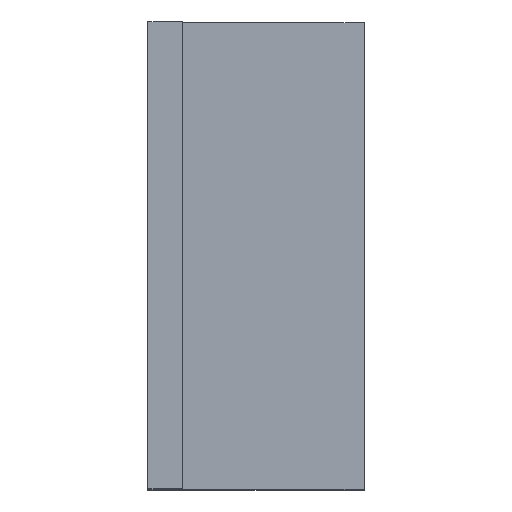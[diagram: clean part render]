
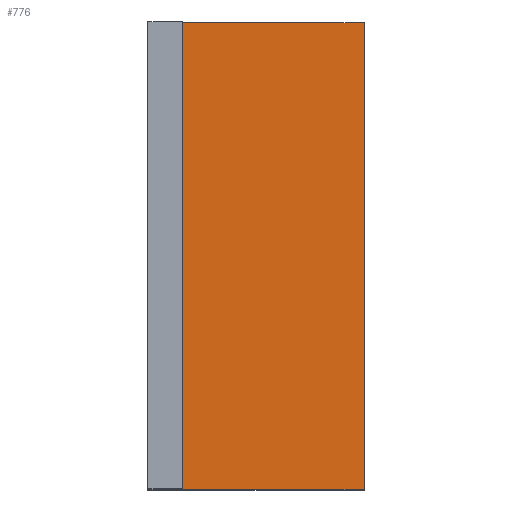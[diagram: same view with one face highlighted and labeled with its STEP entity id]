
A CAD part, top view. The second image highlights one B-rep face of the part: STEP entity #776.
In plain terms, the highlighted planar face has unit normal (0, 0, 1).
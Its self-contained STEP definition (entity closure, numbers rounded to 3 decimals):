
#44 = PLANE('',#45);
#45 = AXIS2_PLACEMENT_3D('',#46,#47,#48);
#46 = CARTESIAN_POINT('',(-2.965,-5.075,5.49));
#47 = DIRECTION('',(0.,1.,0.));
#48 = DIRECTION('',(0.,0.,1.));
#100 = PLANE('',#101);
#101 = AXIS2_PLACEMENT_3D('',#102,#103,#104);
#102 = CARTESIAN_POINT('',(-2.965,5.075,5.49));
#103 = DIRECTION('',(0.,1.,0.));
#104 = DIRECTION('',(0.,0.,1.));
#166 = VERTEX_POINT('',#167);
#167 = CARTESIAN_POINT('',(-2.215,-5.075,14.39));
#193 = EDGE_CURVE('',#166,#194,#196,.T.);
#194 = VERTEX_POINT('',#195);
#195 = CARTESIAN_POINT('',(1.735,-5.075,14.39));
#196 = SURFACE_CURVE('',#197,(#201,#208),.PCURVE_S1.);
#197 = LINE('',#198,#199);
#198 = CARTESIAN_POINT('',(-2.965,-5.075,14.39));
#199 = VECTOR('',#200,1.);
#200 = DIRECTION('',(1.,0.,0.));
#201 = PCURVE('',#44,#202);
#202 = DEFINITIONAL_REPRESENTATION('',(#203),#207);
#203 = LINE('',#204,#205);
#204 = CARTESIAN_POINT('',(8.9,0.));
#205 = VECTOR('',#206,1.);
#206 = DIRECTION('',(0.,1.));
#207 = ( GEOMETRIC_REPRESENTATION_CONTEXT(2) 
PARAMETRIC_REPRESENTATION_CONTEXT() REPRESENTATION_CONTEXT('2D SPACE',''
  ) );
#208 = PCURVE('',#209,#214);
#209 = PLANE('',#210);
#210 = AXIS2_PLACEMENT_3D('',#211,#212,#213);
#211 = CARTESIAN_POINT('',(-2.965,-5.075,14.39));
#212 = DIRECTION('',(0.,0.,1.));
#213 = DIRECTION('',(1.,0.,0.));
#214 = DEFINITIONAL_REPRESENTATION('',(#215),#219);
#215 = LINE('',#216,#217);
#216 = CARTESIAN_POINT('',(0.,0.));
#217 = VECTOR('',#218,1.);
#218 = DIRECTION('',(1.,0.));
#219 = ( GEOMETRIC_REPRESENTATION_CONTEXT(2) 
PARAMETRIC_REPRESENTATION_CONTEXT() REPRESENTATION_CONTEXT('2D SPACE',''
  ) );
#235 = PLANE('',#236);
#236 = AXIS2_PLACEMENT_3D('',#237,#238,#239);
#237 = CARTESIAN_POINT('',(1.735,-5.075,5.49));
#238 = DIRECTION('',(1.,0.,0.));
#239 = DIRECTION('',(0.,0.,1.));
#391 = VERTEX_POINT('',#392);
#392 = CARTESIAN_POINT('',(-2.215,5.075,14.39));
#413 = EDGE_CURVE('',#391,#414,#416,.T.);
#414 = VERTEX_POINT('',#415);
#415 = CARTESIAN_POINT('',(1.735,5.075,14.39));
#416 = SURFACE_CURVE('',#417,(#421,#428),.PCURVE_S1.);
#417 = LINE('',#418,#419);
#418 = CARTESIAN_POINT('',(-2.965,5.075,14.39));
#419 = VECTOR('',#420,1.);
#420 = DIRECTION('',(1.,0.,0.));
#421 = PCURVE('',#100,#422);
#422 = DEFINITIONAL_REPRESENTATION('',(#423),#427);
#423 = LINE('',#424,#425);
#424 = CARTESIAN_POINT('',(8.9,0.));
#425 = VECTOR('',#426,1.);
#426 = DIRECTION('',(0.,1.));
#427 = ( GEOMETRIC_REPRESENTATION_CONTEXT(2) 
PARAMETRIC_REPRESENTATION_CONTEXT() REPRESENTATION_CONTEXT('2D SPACE',''
  ) );
#428 = PCURVE('',#209,#429);
#429 = DEFINITIONAL_REPRESENTATION('',(#430),#434);
#430 = LINE('',#431,#432);
#431 = CARTESIAN_POINT('',(0.,10.15));
#432 = VECTOR('',#433,1.);
#433 = DIRECTION('',(1.,0.));
#434 = ( GEOMETRIC_REPRESENTATION_CONTEXT(2) 
PARAMETRIC_REPRESENTATION_CONTEXT() REPRESENTATION_CONTEXT('2D SPACE',''
  ) );
#702 = EDGE_CURVE('',#194,#414,#703,.T.);
#703 = SURFACE_CURVE('',#704,(#708,#715),.PCURVE_S1.);
#704 = LINE('',#705,#706);
#705 = CARTESIAN_POINT('',(1.735,-5.075,14.39));
#706 = VECTOR('',#707,1.);
#707 = DIRECTION('',(0.,1.,0.));
#708 = PCURVE('',#235,#709);
#709 = DEFINITIONAL_REPRESENTATION('',(#710),#714);
#710 = LINE('',#711,#712);
#711 = CARTESIAN_POINT('',(8.9,0.));
#712 = VECTOR('',#713,1.);
#713 = DIRECTION('',(0.,-1.));
#714 = ( GEOMETRIC_REPRESENTATION_CONTEXT(2) 
PARAMETRIC_REPRESENTATION_CONTEXT() REPRESENTATION_CONTEXT('2D SPACE',''
  ) );
#715 = PCURVE('',#209,#716);
#716 = DEFINITIONAL_REPRESENTATION('',(#717),#721);
#717 = LINE('',#718,#719);
#718 = CARTESIAN_POINT('',(4.7,0.));
#719 = VECTOR('',#720,1.);
#720 = DIRECTION('',(0.,1.));
#721 = ( GEOMETRIC_REPRESENTATION_CONTEXT(2) 
PARAMETRIC_REPRESENTATION_CONTEXT() REPRESENTATION_CONTEXT('2D SPACE',''
  ) );
#765 = PLANE('',#766);
#766 = AXIS2_PLACEMENT_3D('',#767,#768,#769);
#767 = CARTESIAN_POINT('',(-2.215,-5.075,14.39));
#768 = DIRECTION('',(1.,0.,0.));
#769 = DIRECTION('',(0.,0.,1.));
#776 = ADVANCED_FACE('',(#777),#209,.T.);
#777 = FACE_BOUND('',#778,.T.);
#778 = EDGE_LOOP('',(#779,#800,#801,#802));
#779 = ORIENTED_EDGE('',*,*,#780,.F.);
#780 = EDGE_CURVE('',#166,#391,#781,.T.);
#781 = SURFACE_CURVE('',#782,(#786,#793),.PCURVE_S1.);
#782 = LINE('',#783,#784);
#783 = CARTESIAN_POINT('',(-2.215,-5.075,14.39));
#784 = VECTOR('',#785,1.);
#785 = DIRECTION('',(0.,1.,0.));
#786 = PCURVE('',#209,#787);
#787 = DEFINITIONAL_REPRESENTATION('',(#788),#792);
#788 = LINE('',#789,#790);
#789 = CARTESIAN_POINT('',(0.75,0.));
#790 = VECTOR('',#791,1.);
#791 = DIRECTION('',(0.,1.));
#792 = ( GEOMETRIC_REPRESENTATION_CONTEXT(2) 
PARAMETRIC_REPRESENTATION_CONTEXT() REPRESENTATION_CONTEXT('2D SPACE',''
  ) );
#793 = PCURVE('',#765,#794);
#794 = DEFINITIONAL_REPRESENTATION('',(#795),#799);
#795 = LINE('',#796,#797);
#796 = CARTESIAN_POINT('',(0.,0.));
#797 = VECTOR('',#798,1.);
#798 = DIRECTION('',(0.,-1.));
#799 = ( GEOMETRIC_REPRESENTATION_CONTEXT(2) 
PARAMETRIC_REPRESENTATION_CONTEXT() REPRESENTATION_CONTEXT('2D SPACE',''
  ) );
#800 = ORIENTED_EDGE('',*,*,#193,.T.);
#801 = ORIENTED_EDGE('',*,*,#702,.T.);
#802 = ORIENTED_EDGE('',*,*,#413,.F.);
